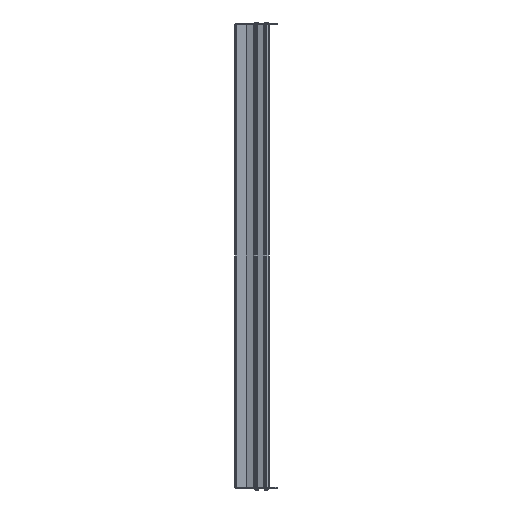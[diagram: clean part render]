
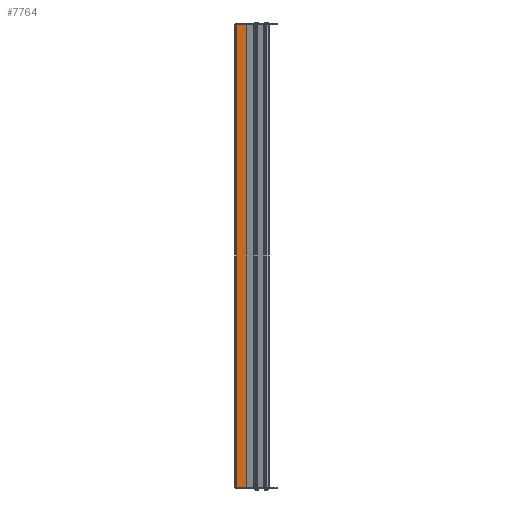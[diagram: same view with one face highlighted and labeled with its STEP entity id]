
A CAD part, left-side view. The second image highlights one B-rep face of the part: STEP entity #7764.
In plain terms, the highlighted planar face has unit normal (-1, 0, 0) as drawn and (1, 0, 0) by its records, which use the part's own axes.
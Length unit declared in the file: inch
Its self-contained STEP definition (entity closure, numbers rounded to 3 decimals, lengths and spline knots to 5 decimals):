
#6415=DIRECTION('',(0.,0.,1.));
#6416=VECTOR('',#6415,40.236);
#6417=CARTESIAN_POINT('',(0.048,0.01693,-20.118));
#6418=LINE('',#6417,#6416);
#6769=DIRECTION('',(0.,-1.,0.));
#6770=VECTOR('',#6769,0.88707);
#6771=CARTESIAN_POINT('',(0.048,0.904,-20.118));
#6772=LINE('',#6771,#6770);
#6773=DIRECTION('',(0.,-1.,0.));
#6774=VECTOR('',#6773,0.88707);
#6775=CARTESIAN_POINT('',(0.048,0.904,20.118));
#6776=LINE('',#6775,#6774);
#6885=DIRECTION('',(0.,0.,-1.));
#6886=VECTOR('',#6885,40.236);
#6887=CARTESIAN_POINT('',(0.048,0.904,20.118));
#6888=LINE('',#6887,#6886);
#7183=CARTESIAN_POINT('',(0.048,0.904,20.118));
#7185=VERTEX_POINT('',#7183);
#7217=CARTESIAN_POINT('',(0.048,0.01693,20.118));
#7218=VERTEX_POINT('',#7217);
#7304=CARTESIAN_POINT('',(0.048,0.01693,-20.118));
#7306=VERTEX_POINT('',#7304);
#7322=CARTESIAN_POINT('',(0.048,0.904,-20.118));
#7324=VERTEX_POINT('',#7322);
#7751=CARTESIAN_POINT('',(0.048,0.,20.118));
#7752=DIRECTION('',(-1.,0.,0.));
#7753=DIRECTION('',(0.,0.,1.));
#7754=AXIS2_PLACEMENT_3D('',#7751,#7752,#7753);
#7755=PLANE('',#7754);
#7756=ORIENTED_EDGE('',*,*,#7744,.T.);
#7757=ORIENTED_EDGE('',*,*,#7426,.T.);
#7759=ORIENTED_EDGE('',*,*,#7758,.F.);
#7761=ORIENTED_EDGE('',*,*,#7760,.T.);
#7762=EDGE_LOOP('',(#7756,#7757,#7759,#7761));
#7763=FACE_OUTER_BOUND('',#7762,.F.);
#7426=EDGE_CURVE('',#7306,#7218,#6418,.T.);
#7744=EDGE_CURVE('',#7324,#7306,#6772,.T.);
#7758=EDGE_CURVE('',#7185,#7218,#6776,.T.);
#7760=EDGE_CURVE('',#7185,#7324,#6888,.T.);
#7764=ADVANCED_FACE('',(#7763),#7755,.F.);
